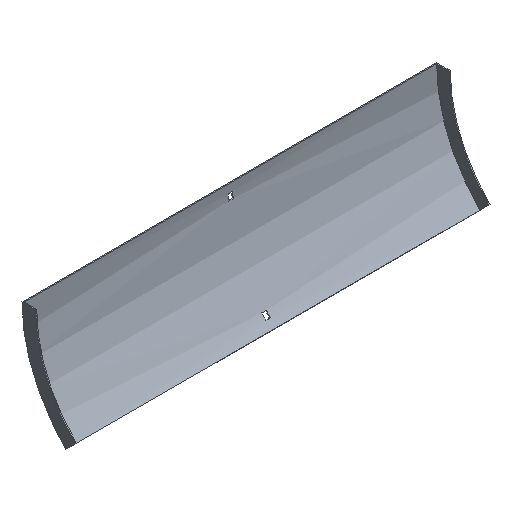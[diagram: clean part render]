
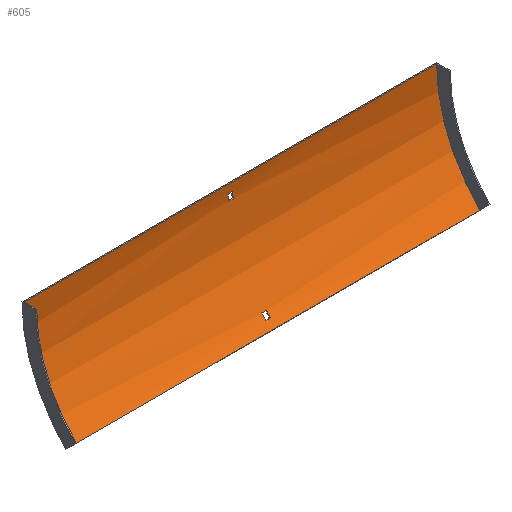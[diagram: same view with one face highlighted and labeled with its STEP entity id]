
A CAD part, isometric view. The second image highlights one B-rep face of the part: STEP entity #605.
In plain terms, the highlighted cylindrical face has radius 217.5 mm (diameter 435 mm), a partial arc.
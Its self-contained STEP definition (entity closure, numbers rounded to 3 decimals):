
#1 = CYLINDRICAL_SURFACE ( 'NONE', #588, 217.5 ) ;
#16 = LINE ( 'NONE', #185, #66 ) ;
#30 = AXIS2_PLACEMENT_3D ( 'NONE', #95, #93, #277 ) ;
#35 = EDGE_CURVE ( 'NONE', #510, #59, #16, .T. ) ;
#38 = VECTOR ( 'NONE', #177, 1000. ) ;
#43 = CARTESIAN_POINT ( 'NONE',  ( -302., -219., 0. ) ) ;
#46 = CARTESIAN_POINT ( 'NONE',  ( -3.25, -219., 0. ) ) ;
#52 = ORIENTED_EDGE ( 'NONE', *, *, #300, .T. ) ;
#56 = ORIENTED_EDGE ( 'NONE', *, *, #315, .T. ) ;
#59 = VERTEX_POINT ( 'NONE', #530 ) ;
#66 = VECTOR ( 'NONE', #484, 1000. ) ;
#67 = VERTEX_POINT ( 'NONE', #107 ) ;
#78 = CARTESIAN_POINT ( 'NONE',  ( 302., -1.5, 0. ) ) ;
#79 = ORIENTED_EDGE ( 'NONE', *, *, #35, .T. ) ;
#81 = DIRECTION ( 'NONE',  ( 1., 0., 0. ) ) ;
#90 = EDGE_CURVE ( 'NONE', #94, #398, #553, .T. ) ;
#93 = DIRECTION ( 'NONE',  ( 1., 0., 0. ) ) ;
#94 = VERTEX_POINT ( 'NONE', #453 ) ;
#95 = CARTESIAN_POINT ( 'NONE',  ( 302., -219., 0. ) ) ;
#98 = LINE ( 'NONE', #429, #104 ) ;
#99 = VERTEX_POINT ( 'NONE', #503 ) ;
#102 = EDGE_CURVE ( 'NONE', #227, #108, #354, .T. ) ;
#104 = VECTOR ( 'NONE', #532, 1000. ) ;
#107 = CARTESIAN_POINT ( 'NONE',  ( 3.25, -51.074, -138.228 ) ) ;
#108 = VERTEX_POINT ( 'NONE', #496 ) ;
#111 = LINE ( 'NONE', #78, #377 ) ;
#117 = VERTEX_POINT ( 'NONE', #130 ) ;
#125 = ORIENTED_EDGE ( 'NONE', *, *, #90, .F. ) ;
#128 = AXIS2_PLACEMENT_3D ( 'NONE', #463, #331, #418 ) ;
#130 = CARTESIAN_POINT ( 'NONE',  ( -3.25, -51.074, -138.228 ) ) ;
#141 = FACE_BOUND ( 'NONE', #187, .T. ) ;
#144 = FACE_OUTER_BOUND ( 'NONE', #489, .T. ) ;
#177 = DIRECTION ( 'NONE',  ( -1., 0., 0. ) ) ;
#180 = FACE_BOUND ( 'NONE', #497, .T. ) ;
#185 = CARTESIAN_POINT ( 'NONE',  ( 303.5, -56.953, -145.076 ) ) ;
#187 = EDGE_LOOP ( 'NONE', ( #79, #279, #52, #483 ) ) ;
#188 = CIRCLE ( 'NONE', #236, 217.5 ) ;
#191 = CARTESIAN_POINT ( 'NONE',  ( 3.25, -56.953, -145.076 ) ) ;
#195 = ORIENTED_EDGE ( 'NONE', *, *, #385, .F. ) ;
#209 = EDGE_CURVE ( 'NONE', #398, #557, #275, .T. ) ;
#210 = AXIS2_PLACEMENT_3D ( 'NONE', #378, #228, #242 ) ;
#227 = VERTEX_POINT ( 'NONE', #502 ) ;
#228 = DIRECTION ( 'NONE',  ( -1., 0., 0. ) ) ;
#236 = AXIS2_PLACEMENT_3D ( 'NONE', #525, #583, #299 ) ;
#242 = DIRECTION ( 'NONE',  ( 0., 0., 1. ) ) ;
#268 = VECTOR ( 'NONE', #345, 1000. ) ;
#270 = CARTESIAN_POINT ( 'NONE',  ( 302., -65.204, -153.796 ) ) ;
#271 = VERTEX_POINT ( 'NONE', #289 ) ;
#275 = CIRCLE ( 'NONE', #599, 217.5 ) ;
#277 = DIRECTION ( 'NONE',  ( 0., 0., 1. ) ) ;
#279 = ORIENTED_EDGE ( 'NONE', *, *, #566, .T. ) ;
#289 = CARTESIAN_POINT ( 'NONE',  ( 302., -1.5, 0. ) ) ;
#293 = VECTOR ( 'NONE', #592, 1000. ) ;
#299 = DIRECTION ( 'NONE',  ( 0., 0., -1. ) ) ;
#300 = EDGE_CURVE ( 'NONE', #117, #67, #339, .T. ) ;
#301 = CARTESIAN_POINT ( 'NONE',  ( 303.5, -51.074, -138.228 ) ) ;
#315 = EDGE_CURVE ( 'NONE', #271, #557, #111, .T. ) ;
#318 = ORIENTED_EDGE ( 'NONE', *, *, #102, .F. ) ;
#319 = CARTESIAN_POINT ( 'NONE',  ( 303.5, -219., 0. ) ) ;
#328 = DIRECTION ( 'NONE',  ( 0., 0., 1. ) ) ;
#331 = DIRECTION ( 'NONE',  ( -1., 0., 0. ) ) ;
#339 = LINE ( 'NONE', #301, #268 ) ;
#342 = VERTEX_POINT ( 'NONE', #490 ) ;
#345 = DIRECTION ( 'NONE',  ( 1., 0., 0. ) ) ;
#346 = AXIS2_PLACEMENT_3D ( 'NONE', #46, #81, #443 ) ;
#354 = LINE ( 'NONE', #604, #293 ) ;
#360 = DIRECTION ( 'NONE',  ( 0., 0., 1. ) ) ;
#377 = VECTOR ( 'NONE', #541, 1000. ) ;
#378 = CARTESIAN_POINT ( 'NONE',  ( 3.25, -219., 0. ) ) ;
#385 = EDGE_CURVE ( 'NONE', #342, #227, #188, .T. ) ;
#386 = ORIENTED_EDGE ( 'NONE', *, *, #444, .F. ) ;
#389 = CIRCLE ( 'NONE', #128, 217.5 ) ;
#392 = ORIENTED_EDGE ( 'NONE', *, *, #493, .F. ) ;
#398 = VERTEX_POINT ( 'NONE', #474 ) ;
#403 = CIRCLE ( 'NONE', #210, 217.5 ) ;
#414 = EDGE_CURVE ( 'NONE', #67, #510, #403, .T. ) ;
#418 = DIRECTION ( 'NONE',  ( 0., 0., 1. ) ) ;
#427 = EDGE_CURVE ( 'NONE', #94, #271, #555, .T. ) ;
#429 = CARTESIAN_POINT ( 'NONE',  ( 303.5, -2.516, -21. ) ) ;
#443 = DIRECTION ( 'NONE',  ( 0., 0., -1. ) ) ;
#444 = EDGE_CURVE ( 'NONE', #108, #99, #389, .T. ) ;
#453 = CARTESIAN_POINT ( 'NONE',  ( 302., -65.204, -153.796 ) ) ;
#463 = CARTESIAN_POINT ( 'NONE',  ( -3.25, -219., 0. ) ) ;
#467 = ORIENTED_EDGE ( 'NONE', *, *, #209, .F. ) ;
#474 = CARTESIAN_POINT ( 'NONE',  ( -302., -65.204, -153.796 ) ) ;
#483 = ORIENTED_EDGE ( 'NONE', *, *, #414, .T. ) ;
#484 = DIRECTION ( 'NONE',  ( -1., 0., 0. ) ) ;
#489 = EDGE_LOOP ( 'NONE', ( #467, #125, #534, #56 ) ) ;
#490 = CARTESIAN_POINT ( 'NONE',  ( 3.25, -2.516, -21. ) ) ;
#493 = EDGE_CURVE ( 'NONE', #99, #342, #98, .T. ) ;
#494 = DIRECTION ( 'NONE',  ( 1., 0., 0. ) ) ;
#496 = CARTESIAN_POINT ( 'NONE',  ( -3.25, -1.831, -12. ) ) ;
#497 = EDGE_LOOP ( 'NONE', ( #386, #318, #195, #392 ) ) ;
#502 = CARTESIAN_POINT ( 'NONE',  ( 3.25, -1.831, -12. ) ) ;
#503 = CARTESIAN_POINT ( 'NONE',  ( -3.25, -2.516, -21. ) ) ;
#507 = DIRECTION ( 'NONE',  ( -1., 0., 0. ) ) ;
#510 = VERTEX_POINT ( 'NONE', #191 ) ;
#525 = CARTESIAN_POINT ( 'NONE',  ( 3.25, -219., 0. ) ) ;
#530 = CARTESIAN_POINT ( 'NONE',  ( -3.25, -56.953, -145.076 ) ) ;
#532 = DIRECTION ( 'NONE',  ( 1., 0., 0. ) ) ;
#534 = ORIENTED_EDGE ( 'NONE', *, *, #427, .T. ) ;
#541 = DIRECTION ( 'NONE',  ( -1., 0., 0. ) ) ;
#553 = LINE ( 'NONE', #270, #38 ) ;
#555 = CIRCLE ( 'NONE', #30, 217.5 ) ;
#557 = VERTEX_POINT ( 'NONE', #591 ) ;
#566 = EDGE_CURVE ( 'NONE', #59, #117, #607, .T. ) ;
#583 = DIRECTION ( 'NONE',  ( 1., 0., 0. ) ) ;
#588 = AXIS2_PLACEMENT_3D ( 'NONE', #319, #507, #328 ) ;
#591 = CARTESIAN_POINT ( 'NONE',  ( -302., -1.5, 0. ) ) ;
#592 = DIRECTION ( 'NONE',  ( -1., 0., 0. ) ) ;
#599 = AXIS2_PLACEMENT_3D ( 'NONE', #43, #494, #360 ) ;
#604 = CARTESIAN_POINT ( 'NONE',  ( 303.5, -1.831, -12. ) ) ;
#605 = ADVANCED_FACE ( 'NONE', ( #180, #144, #141 ), #1, .F. ) ;
#607 = CIRCLE ( 'NONE', #346, 217.5 ) ;
